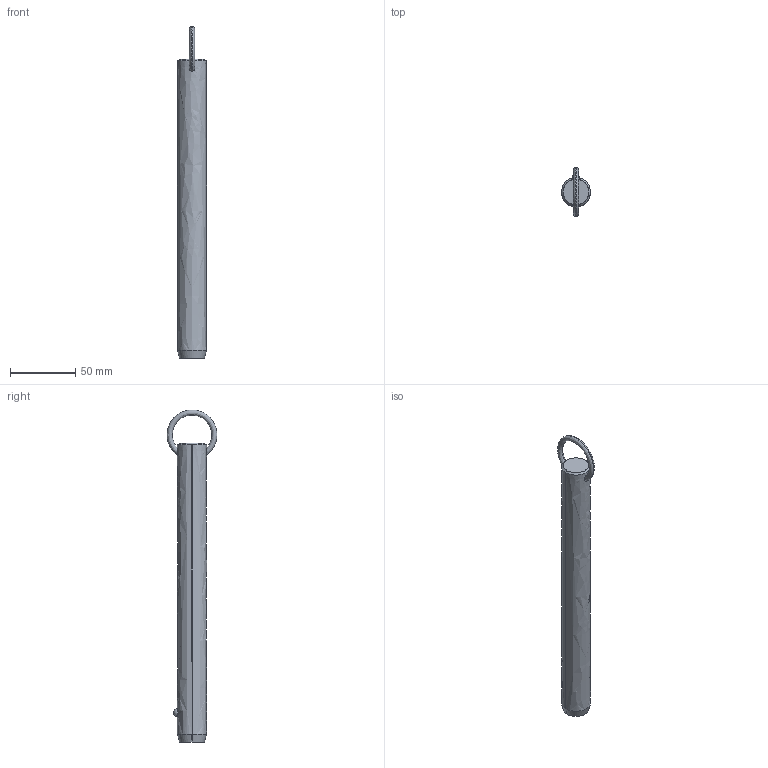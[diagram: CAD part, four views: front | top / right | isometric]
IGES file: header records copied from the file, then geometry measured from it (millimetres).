
Start section: SolidWorks IGES file using analytic representation for surfaces
Global section: file name: C:\Users\liam_\OneDrive\Documents\WORK\Work for WixRoyd\Job Files\J-00019 - Matt Davis CAD Checking\04. CAD Drawings\automotion20190605\P1250.2_v2\P1250.2_v2_20190729_IGES\P1250.087-750.igs; native system: SolidWorks 2017; preprocessor: SolidWorks 2017; author: liam_; date: 190730.173122; units: millimetre
Bounding box: 22.2 x 38.1 x 253.98 mm (x, y, z)
Surface area: 17587.1 mm2 (no closed solid volume)
Topology: 0 solids, 0 shells, 12 faces, 302 edges, 300 vertices
Faces by surface type: revolution 8, bspline 4
